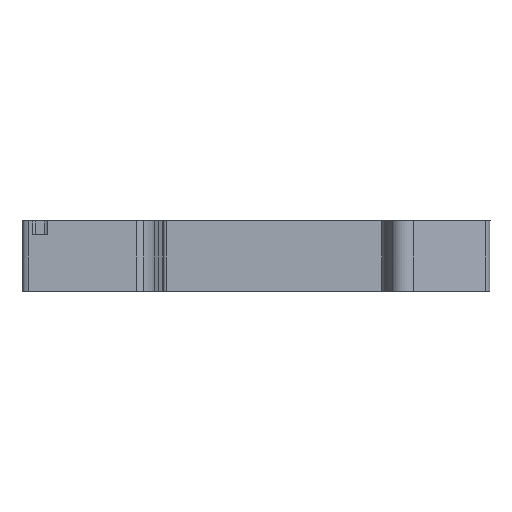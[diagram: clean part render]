
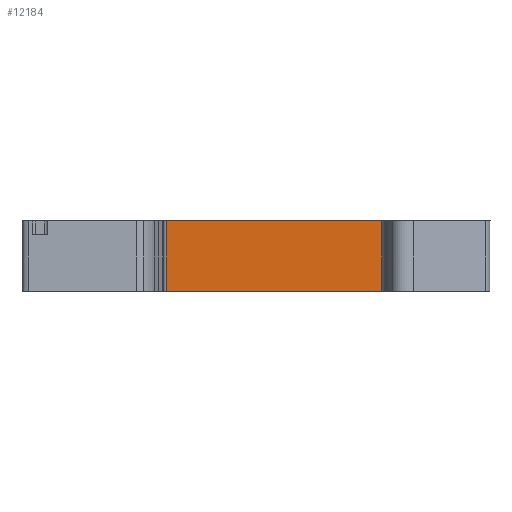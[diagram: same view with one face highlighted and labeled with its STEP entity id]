
A CAD part, front view. The second image highlights one B-rep face of the part: STEP entity #12184.
In plain terms, the highlighted planar face has unit normal (0, -1, 0).
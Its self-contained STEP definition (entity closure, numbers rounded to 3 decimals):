
#1158=DIRECTION('',(-1.,0.,0.));
#1159=VECTOR('',#1158,32.248);
#1160=CARTESIAN_POINT('',(53.15,6.75,10.15));
#1161=LINE('',#1160,#1159);
#2195=DIRECTION('',(1.,0.,0.));
#2196=VECTOR('',#2195,32.248);
#2197=CARTESIAN_POINT('',(20.902,6.75,0.));
#2198=LINE('',#2197,#2196);
#2827=DIRECTION('',(0.,0.,1.));
#2828=VECTOR('',#2827,10.15);
#2829=CARTESIAN_POINT('',(53.15,6.75,0.));
#2830=LINE('',#2829,#2828);
#2835=DIRECTION('',(0.,0.,-1.));
#2836=VECTOR('',#2835,10.15);
#2837=CARTESIAN_POINT('',(20.902,6.75,10.15));
#2838=LINE('',#2837,#2836);
#8106=CARTESIAN_POINT('',(20.902,6.75,0.));
#8107=VERTEX_POINT('',#8106);
#8108=CARTESIAN_POINT('',(53.15,6.75,0.));
#8109=VERTEX_POINT('',#8108);
#8525=CARTESIAN_POINT('',(53.15,6.75,10.15));
#8526=VERTEX_POINT('',#8525);
#8527=CARTESIAN_POINT('',(20.902,6.75,10.15));
#8528=VERTEX_POINT('',#8527);
#12172=CARTESIAN_POINT('',(53.988,6.75,10.435));
#12173=DIRECTION('',(0.,-1.,0.));
#12174=DIRECTION('',(-1.,0.,0.));
#12175=AXIS2_PLACEMENT_3D('',#12172,#12173,#12174);
#12176=PLANE('',#12175);
#12178=ORIENTED_EDGE('',*,*,#12177,.F.);
#12179=ORIENTED_EDGE('',*,*,#10718,.F.);
#12180=ORIENTED_EDGE('',*,*,#12166,.F.);
#12181=ORIENTED_EDGE('',*,*,#11209,.F.);
#12182=EDGE_LOOP('',(#12178,#12179,#12180,#12181));
#12183=FACE_OUTER_BOUND('',#12182,.F.);
#12184=ADVANCED_FACE('',(#12183),#12176,.T.);
#10718=EDGE_CURVE('',#8526,#8528,#1161,.T.);
#11209=EDGE_CURVE('',#8107,#8109,#2198,.T.);
#12166=EDGE_CURVE('',#8109,#8526,#2830,.T.);
#12177=EDGE_CURVE('',#8528,#8107,#2838,.T.);
